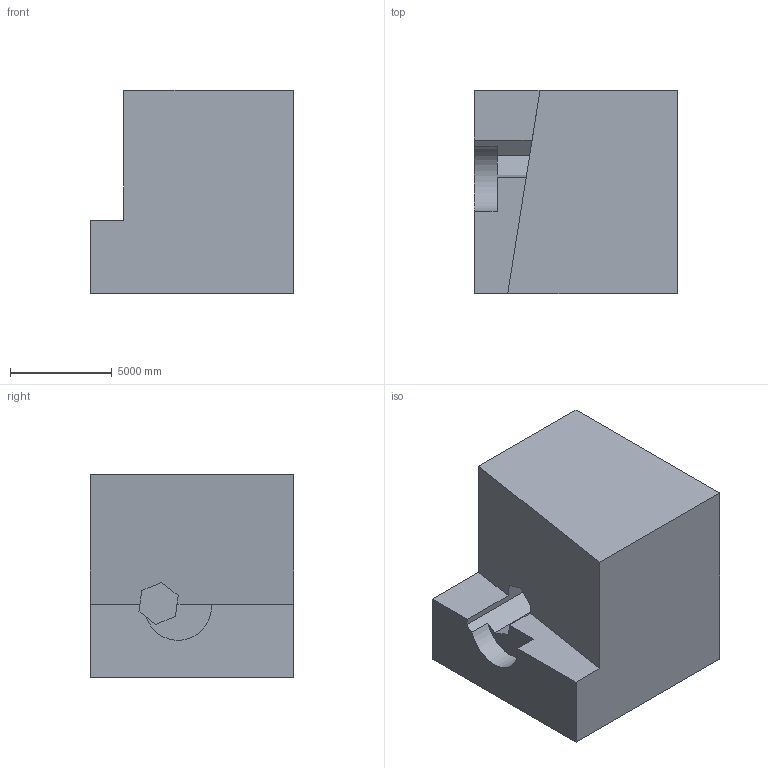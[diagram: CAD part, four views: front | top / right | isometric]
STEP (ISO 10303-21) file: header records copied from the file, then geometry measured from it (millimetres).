
FILE_DESCRIPTION (( 'STEP AP203' ), '1' );
FILE_NAME ('1203.STEP', '2022-08-18T13:10:13', ( 'user' ), ( '' ), 'SwSTEP 2.0', 'SolidWorks 2021', '' );
FILE_SCHEMA (( 'CONFIG_CONTROL_DESIGN' ));
Length unit declared in the file: centimetre
Products named in the file (1): 1203
Bounding box: 10000 x 10000 x 10000 mm (x, y, z)
Volume: 819311898196.6 mm3; surface area: 612959014.2 mm2
Topology: 1 solids, 1 shells, 18 faces, 48 edges, 32 vertices
Faces by surface type: plane 17, cylinder 1
Entity records: 631 total; most frequent: CARTESIAN_POINT 99, ORIENTED_EDGE 96, DIRECTION 88, EDGE_CURVE 48, VECTOR 46, LINE 46, VERTEX_POINT 32, AXIS2_PLACEMENT_3D 21
